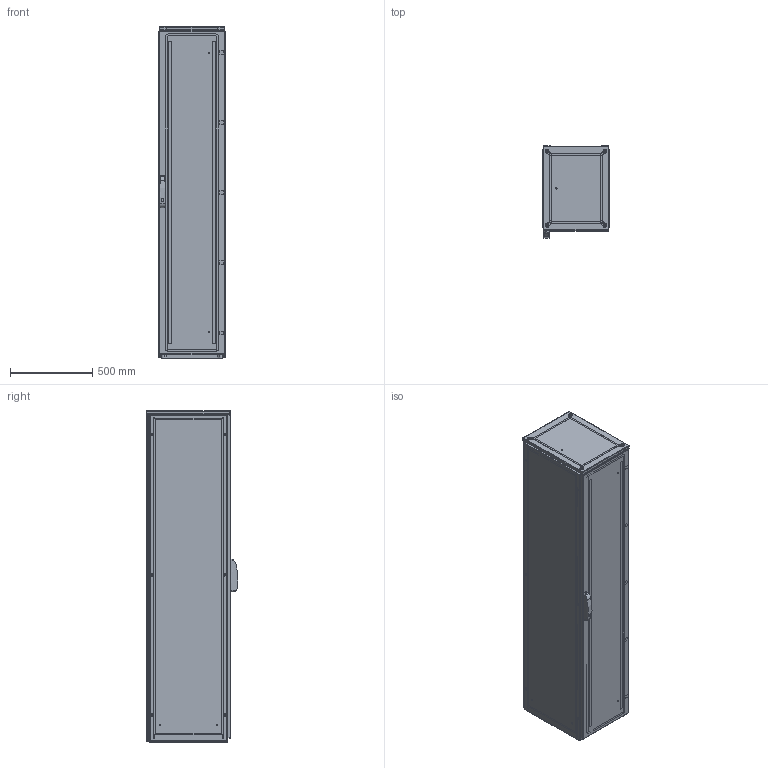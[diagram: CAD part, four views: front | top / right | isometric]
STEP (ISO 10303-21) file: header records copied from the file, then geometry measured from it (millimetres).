
FILE_DESCRIPTION(/* description */ ('STEP AP214'),/* implementation_level */ '2;1');
FILE_NAME(/* name */ 'ENUX042005PR-LOD350',/* time_stamp */ '2025-08-04T14:21:25+02:00',/* author */ ('License CC BY-ND 4.0'),/* organization */ ('CADENAS'),/* preprocessor_version */ 'ST-DEVELOPER v19.3',/* originating_system */ 'PARTsolutions',/* authorisation */ ' ');
FILE_SCHEMA (('AUTOMOTIVE_DESIGN {1 0 10303 214 3 1 1}'));
Length unit declared in the file: millimetre
Products named in the file (10): ENUX042005PR-LOD350; ENUX042005PR-LOD350_CON; ENUX042005PR-LOD350_floor1; ENUX042005PR-LOD350_floor2; Screw M12x30 architecture 350; ENUX042005PR-LOD350_side; ENUX042005PR-LOD350_top; ENUX042005PR-LOD350_back_door; ENUX042005PR-LOD350_door; ENUX042005PR-LOD350_handle
Assembly tree (15 placements, depth 2):
  ENUX042005PR-LOD350
    ENUX042005PR-LOD350_CON
    ENUX042005PR-LOD350_floor1  x2
    ENUX042005PR-LOD350_floor2  x2
    Screw M12x30 architecture 350  x4
    ENUX042005PR-LOD350_side  x2
    ENUX042005PR-LOD350_top
    ENUX042005PR-LOD350_back_door
    ENUX042005PR-LOD350_door
    ENUX042005PR-LOD350_handle
Bounding box: 412 x 557 x 2014.1 mm (x, y, z)
Volume: 14994682.3 mm3; surface area: 13164575.8 mm2
Topology: 15 solids, 15 shells, 1648 faces, 4611 edges, 3004 vertices
Faces by surface type: plane 826, cylinder 657, cone 77, torus 72, sphere 16
Full cylindrical faces by diameter (mm): 4.5 x108, 6 x14, 6.8 x8, 9 x9, 12 x16, 13 x4, 18 x1, 21 x4
Entity records: 43839 total; most frequent: CARTESIAN_POINT 7612, DIRECTION 7587, ORIENTED_EDGE 7128, EDGE_CURVE 3564, AXIS2_PLACEMENT_3D 2701, VERTEX_POINT 2485, LINE 2185, VECTOR 2185
